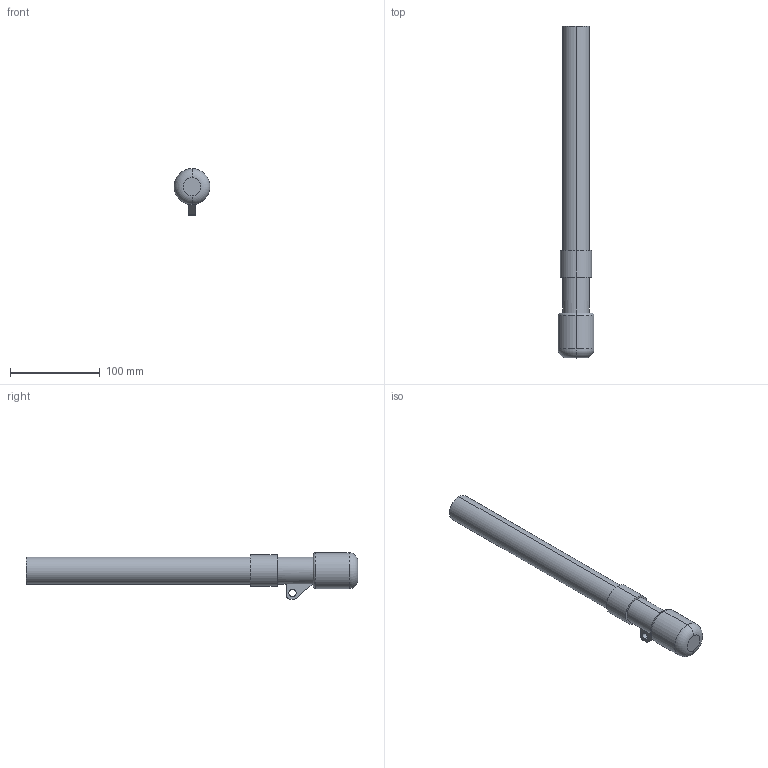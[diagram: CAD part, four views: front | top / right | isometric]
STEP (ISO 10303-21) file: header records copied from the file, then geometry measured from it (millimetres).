
FILE_DESCRIPTION (( 'STEP AP203' ), '1' );
FILE_NAME ('FOOT.STEP', '2020-08-13T18:25:41', ( 'user' ), ( '' ), 'SwSTEP 2.0', 'SolidWorks 2018', '' );
FILE_SCHEMA (( 'CONFIG_CONTROL_DESIGN' ));
Length unit declared in the file: millimetre
Products named in the file (1): FOOT
Bounding box: 40 x 370 x 52 mm (x, y, z)
Volume: 296325.4 mm3; surface area: 40150.3 mm2
Topology: 1 solids, 1 shells, 26 faces, 57 edges, 36 vertices
Faces by surface type: cylinder 12, plane 10, torus 4
Entity records: 808 total; most frequent: DIRECTION 145, CARTESIAN_POINT 120, ORIENTED_EDGE 114, AXIS2_PLACEMENT_3D 61, EDGE_CURVE 57, VERTEX_POINT 36, CIRCLE 34, EDGE_LOOP 31
